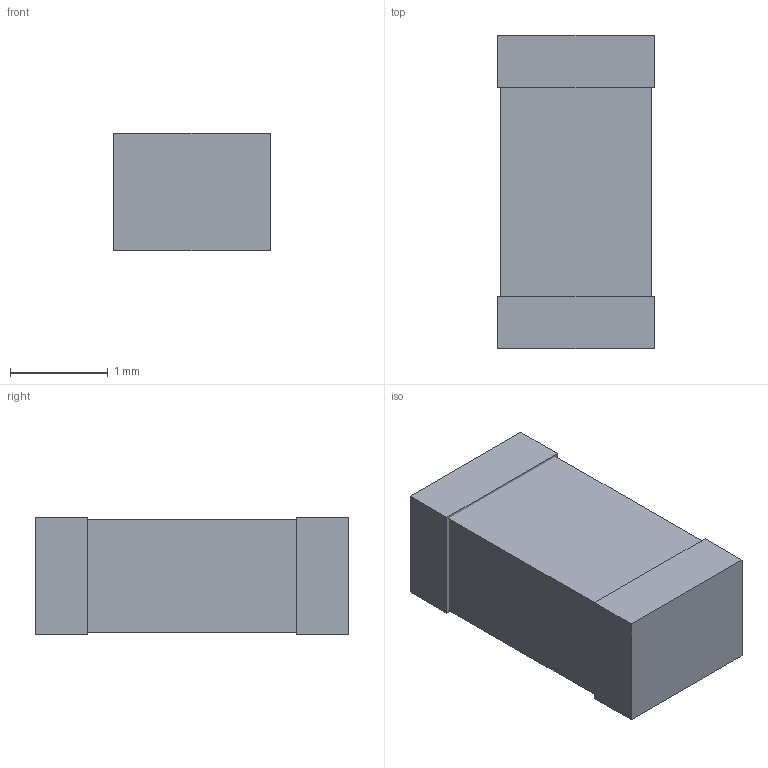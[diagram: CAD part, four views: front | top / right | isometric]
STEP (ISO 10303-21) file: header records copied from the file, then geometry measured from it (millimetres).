
FILE_DESCRIPTION(('FreeCAD Model'),'2;1');
FILE_NAME('Open CASCADE Shape Model','2025-01-29T20:48:44',( 'Krisjanis Rijnieks'),(''),'Open CASCADE STEP processor 7.7', 'FreeCAD','Unknown');
FILE_SCHEMA(('AUTOMOTIVE_DESIGN { 1 0 10303 214 1 1 1 1 }'));
Length unit declared in the file: millimetre
Products named in the file (4): 1206; Body; Contact; ContactClone
Assembly tree (3 placements, depth 2):
  1206
    Body
    Contact
    ContactClone
Bounding box: 1.6 x 3.2 x 1.2 mm (x, y, z)
Surface area: 34.2 mm2
Topology: 3 solids, 3 shells, 18 faces, 36 edges, 24 vertices
Faces by surface type: plane 18
Entity records: 553 total; most frequent: CARTESIAN_POINT 82, DIRECTION 80, ORIENTED_EDGE 72, EDGE_CURVE 36, LINE 36, VECTOR 36, VERTEX_POINT 24, AXIS2_PLACEMENT_3D 22
